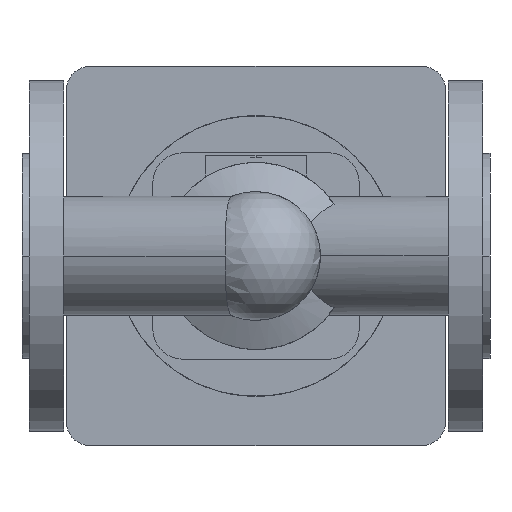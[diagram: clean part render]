
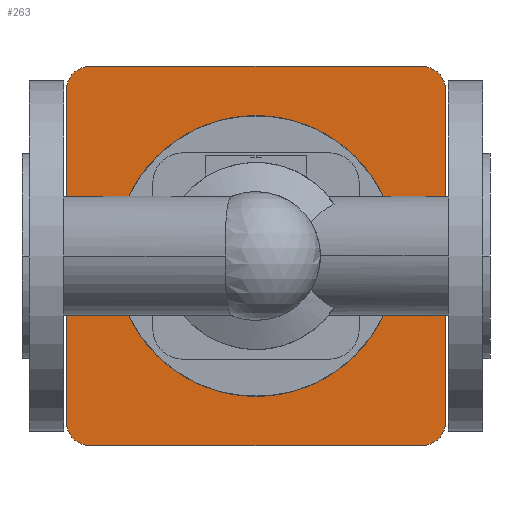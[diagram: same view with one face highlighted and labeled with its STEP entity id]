
A CAD part, front view. The second image highlights one B-rep face of the part: STEP entity #263.
In plain terms, the highlighted planar face has unit normal (0, -1, 0).
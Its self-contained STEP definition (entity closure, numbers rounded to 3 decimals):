
#263 = ADVANCED_FACE( '', ( #603, #604 ), #605, .F. );
#603 = FACE_OUTER_BOUND( '', #969, .T. );
#604 = FACE_BOUND( '', #970, .T. );
#605 = PLANE( '', #971 );
#969 = EDGE_LOOP( '', ( #2116, #2117, #2118, #2119, #2120, #2121, #2122, #2123 ) );
#970 = EDGE_LOOP( '', ( #2124, #2125 ) );
#971 = AXIS2_PLACEMENT_3D( '', #2126, #2127, #2128 );
#2116 = ORIENTED_EDGE( '', *, *, #2645, .F. );
#2117 = ORIENTED_EDGE( '', *, *, #2646, .F. );
#2118 = ORIENTED_EDGE( '', *, *, #2647, .F. );
#2119 = ORIENTED_EDGE( '', *, *, #2648, .F. );
#2120 = ORIENTED_EDGE( '', *, *, #2649, .F. );
#2121 = ORIENTED_EDGE( '', *, *, #2650, .F. );
#2122 = ORIENTED_EDGE( '', *, *, #2651, .F. );
#2123 = ORIENTED_EDGE( '', *, *, #2652, .F. );
#2124 = ORIENTED_EDGE( '', *, *, #2560, .F. );
#2125 = ORIENTED_EDGE( '', *, *, #2653, .F. );
#2126 = CARTESIAN_POINT( '', ( 100., 413., 0. ) );
#2127 = DIRECTION( '', ( 0., 1., 0. ) );
#2128 = DIRECTION( '', ( 0., 0., 1. ) );
#2560 = EDGE_CURVE( '', #3135, #3138, #3139, .T. );
#2645 = EDGE_CURVE( '', #3282, #3283, #3284, .T. );
#2646 = EDGE_CURVE( '', #3285, #3282, #3286, .T. );
#2647 = EDGE_CURVE( '', #3287, #3285, #3288, .T. );
#2648 = EDGE_CURVE( '', #3289, #3287, #3290, .T. );
#2649 = EDGE_CURVE( '', #3291, #3289, #3292, .T. );
#2650 = EDGE_CURVE( '', #3293, #3291, #3294, .T. );
#2651 = EDGE_CURVE( '', #3295, #3293, #3296, .T. );
#2652 = EDGE_CURVE( '', #3283, #3295, #3297, .T. );
#2653 = EDGE_CURVE( '', #3138, #3135, #3298, .T. );
#3135 = VERTEX_POINT( '', #4404 );
#3138 = VERTEX_POINT( '', #4408 );
#3139 = CIRCLE( '', #4409, 40. );
#3282 = VERTEX_POINT( '', #4607 );
#3283 = VERTEX_POINT( '', #4608 );
#3284 = CIRCLE( '', #4609, 10. );
#3285 = VERTEX_POINT( '', #4610 );
#3286 = LINE( '', #4611, #4612 );
#3287 = VERTEX_POINT( '', #4613 );
#3288 = CIRCLE( '', #4614, 10. );
#3289 = VERTEX_POINT( '', #4615 );
#3290 = LINE( '', #4616, #4617 );
#3291 = VERTEX_POINT( '', #4618 );
#3292 = CIRCLE( '', #4619, 10. );
#3293 = VERTEX_POINT( '', #4620 );
#3294 = LINE( '', #4621, #4622 );
#3295 = VERTEX_POINT( '', #4623 );
#3296 = CIRCLE( '', #4624, 10. );
#3297 = LINE( '', #4625, #4626 );
#3298 = CIRCLE( '', #4627, 40. );
#4404 = CARTESIAN_POINT( '', ( 60., 413., 0. ) );
#4408 = CARTESIAN_POINT( '', ( 140., 413., 0. ) );
#4409 = AXIS2_PLACEMENT_3D( '', #5182, #5183, #5184 );
#4607 = CARTESIAN_POINT( '', ( 19., 413., 71. ) );
#4608 = CARTESIAN_POINT( '', ( 29., 413., 81. ) );
#4609 = AXIS2_PLACEMENT_3D( '', #5327, #5328, #5329 );
#4610 = CARTESIAN_POINT( '', ( 19., 413., -71. ) );
#4611 = CARTESIAN_POINT( '', ( 19., 413., -71. ) );
#4612 = VECTOR( '', #5330, 1. );
#4613 = CARTESIAN_POINT( '', ( 29., 413., -81. ) );
#4614 = AXIS2_PLACEMENT_3D( '', #5331, #5332, #5333 );
#4615 = CARTESIAN_POINT( '', ( 171., 413., -81. ) );
#4616 = CARTESIAN_POINT( '', ( 171., 413., -81. ) );
#4617 = VECTOR( '', #5334, 1. );
#4618 = CARTESIAN_POINT( '', ( 181., 413., -71. ) );
#4619 = AXIS2_PLACEMENT_3D( '', #5335, #5336, #5337 );
#4620 = CARTESIAN_POINT( '', ( 181., 413., 71. ) );
#4621 = CARTESIAN_POINT( '', ( 181., 413., 71. ) );
#4622 = VECTOR( '', #5338, 1. );
#4623 = CARTESIAN_POINT( '', ( 171., 413., 81. ) );
#4624 = AXIS2_PLACEMENT_3D( '', #5339, #5340, #5341 );
#4625 = CARTESIAN_POINT( '', ( 29., 413., 81. ) );
#4626 = VECTOR( '', #5342, 1. );
#4627 = AXIS2_PLACEMENT_3D( '', #5343, #5344, #5345 );
#5182 = CARTESIAN_POINT( '', ( 100., 413., 0. ) );
#5183 = DIRECTION( '', ( 0., -1., 0. ) );
#5184 = DIRECTION( '', ( -1., 0., 0. ) );
#5327 = CARTESIAN_POINT( '', ( 29., 413., 71. ) );
#5328 = DIRECTION( '', ( 0., 1., 0. ) );
#5329 = DIRECTION( '', ( -1., 0., 0. ) );
#5330 = DIRECTION( '', ( 0., 0., 1. ) );
#5331 = CARTESIAN_POINT( '', ( 29., 413., -71. ) );
#5332 = DIRECTION( '', ( 0., 1., 0. ) );
#5333 = DIRECTION( '', ( 0., 0., -1. ) );
#5334 = DIRECTION( '', ( -1., 0., 0. ) );
#5335 = CARTESIAN_POINT( '', ( 171., 413., -71. ) );
#5336 = DIRECTION( '', ( 0., 1., 0. ) );
#5337 = DIRECTION( '', ( 1., 0., 0. ) );
#5338 = DIRECTION( '', ( 0., 0., -1. ) );
#5339 = CARTESIAN_POINT( '', ( 171., 413., 71. ) );
#5340 = DIRECTION( '', ( 0., 1., 0. ) );
#5341 = DIRECTION( '', ( 0., 0., 1. ) );
#5342 = DIRECTION( '', ( 1., 0., 0. ) );
#5343 = CARTESIAN_POINT( '', ( 100., 413., 0. ) );
#5344 = DIRECTION( '', ( 0., -1., 0. ) );
#5345 = DIRECTION( '', ( -1., 0., 0. ) );
